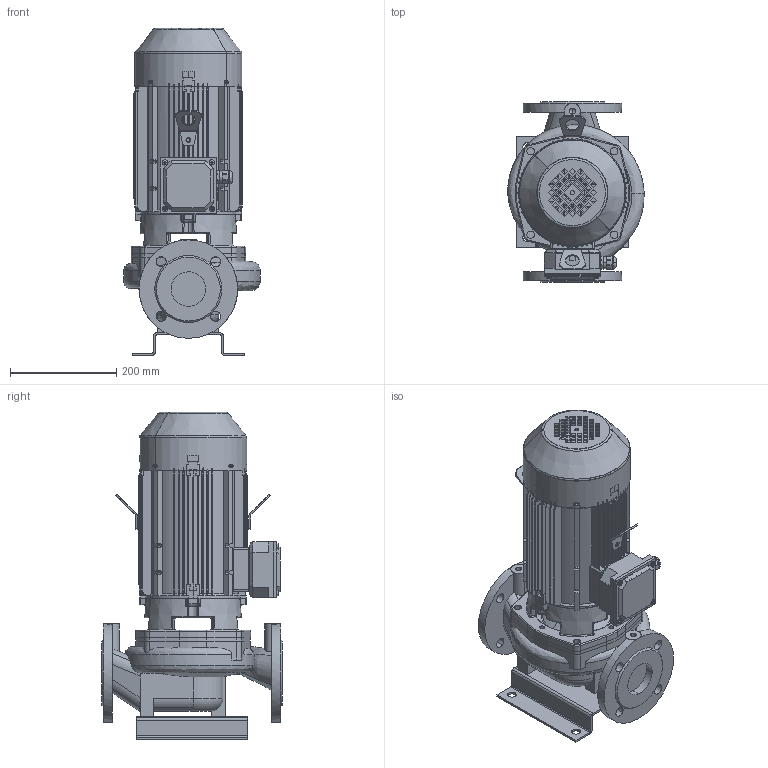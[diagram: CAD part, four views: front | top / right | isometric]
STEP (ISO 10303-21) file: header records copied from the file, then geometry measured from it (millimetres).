
FILE_DESCRIPTION(('STEP AP214'),'1');
FILE_NAME('export.stp','2018-05-29T06:58:53',(' '),(' '),'Spatial InterOp 3D',' ',' ');
FILE_SCHEMA(('AUTOMOTIVE_DESIGN { 1 0 10303 214 1 1 1 1 }'));
Length unit declared in the file: millimetre
Products named in the file (22): W_L65A4770_withou; V_TLL65AB80A1102; V_PPL65AB; V_JALKA35973; W_L65A4300_KP100; 160027; 160005; V_MKP100-2_F19; 160141; 160137; 160138; 160139; 160140; Koura_Ale_M5; Plug_Blind_M20; Sealing_Plug_M20; DIN_7985-M5X8; DIN_7985-M5X12; 160060___; 160059___; 160136; 160134
Assembly tree (25 placements, depth 4):
  W_L65A4300_KP100
    W_L65A4770_withou
      V_TLL65AB80A1102
      V_PPL65AB
      V_JALKA35973
    V_MKP100-2_F19
      160027
        160005
      160141
        160137
        160138
        160139
        160140
        Koura_Ale_M5
        Plug_Blind_M20
        Sealing_Plug_M20
        DIN_7985-M5X8
        DIN_7985-M5X12  x4
      160060___
      160059___
      160136
      160134  x2
Bounding box: 256.43 x 340 x 615 mm (x, y, z)
Volume: 7230909.2 mm3; surface area: 1686786.6 mm2
Topology: 21 solids, 22 shells, 2515 faces, 6734 edges, 4271 vertices
Faces by surface type: plane 1082, cylinder 786, bspline 246, torus 239, cone 147, sphere 15
Entity records: 96725 total; most frequent: CARTESIAN_POINT 33290, ORIENTED_EDGE 12932, DIRECTION 11876, EDGE_CURVE 6468, AXIS2_PLACEMENT_3D 4428, VERTEX_POINT 4127, LINE 3020, VECTOR 3020
